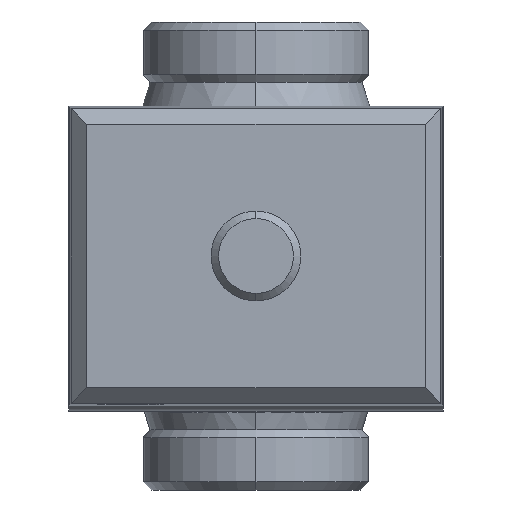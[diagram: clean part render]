
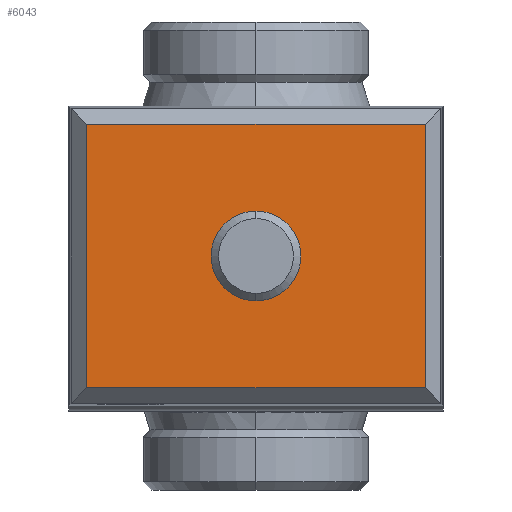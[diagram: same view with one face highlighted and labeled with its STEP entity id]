
A CAD part, front view. The second image highlights one B-rep face of the part: STEP entity #6043.
In plain terms, the highlighted planar face has unit normal (0, -1, 0).
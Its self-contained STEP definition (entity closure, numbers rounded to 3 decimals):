
#5868=CARTESIAN_POINT('',(45.222,-262.,97.722));
#5869=VERTEX_POINT('',#5868);
#5876=CARTESIAN_POINT('',(45.222,-262.,27.278));
#5877=VERTEX_POINT('',#5876);
#5878=CARTESIAN_POINT('',(45.222,-262.,97.722));
#5879=DIRECTION('',(0.0,0.0,-1.0));
#5880=VECTOR('',#5879,70.444);
#5881=LINE('',#5878,#5880);
#5882=EDGE_CURVE('',#5869,#5877,#5881,.T.);
#5907=CARTESIAN_POINT('',(-45.222,-262.,27.278));
#5908=VERTEX_POINT('',#5907);
#5909=CARTESIAN_POINT('',(45.222,-262.,27.278));
#5910=DIRECTION('',(-1.0,0.0,0.0));
#5911=VECTOR('',#5910,90.444);
#5912=LINE('',#5909,#5911);
#5913=EDGE_CURVE('',#5877,#5908,#5912,.T.);
#5937=CARTESIAN_POINT('',(-45.222,-262.,97.722));
#5938=VERTEX_POINT('',#5937);
#5945=CARTESIAN_POINT('',(-45.222,-262.,97.722));
#5946=DIRECTION('',(1.0,0.0,0.0));
#5947=VECTOR('',#5946,90.444);
#5948=LINE('',#5945,#5947);
#5949=EDGE_CURVE('',#5938,#5869,#5948,.T.);
#5967=CARTESIAN_POINT('',(-45.222,-262.,27.278));
#5968=DIRECTION('',(0.0,0.0,1.0));
#5969=VECTOR('',#5968,70.444);
#5970=LINE('',#5967,#5969);
#5971=EDGE_CURVE('',#5908,#5938,#5970,.T.);
#6032=CARTESIAN_POINT('',(0.,-262.,62.5));
#6033=DIRECTION('',(0.0,1.0,0.0));
#6034=DIRECTION('',(0.0,0.0,-1.0));
#6035=AXIS2_PLACEMENT_3D('',#6032,#6033,#6034);
#6036=PLANE('',#6035);
#6037=ORIENTED_EDGE('',*,*,#5882,.F.);
#6038=ORIENTED_EDGE('',*,*,#5949,.F.);
#6039=ORIENTED_EDGE('',*,*,#5971,.F.);
#6040=ORIENTED_EDGE('',*,*,#5913,.F.);
#6041=EDGE_LOOP('',(#6037,#6038,#6039,#6040));
#6042=FACE_OUTER_BOUND('',#6041,.T.);
#6043=ADVANCED_FACE('',(#6042),#6036,.F.);
